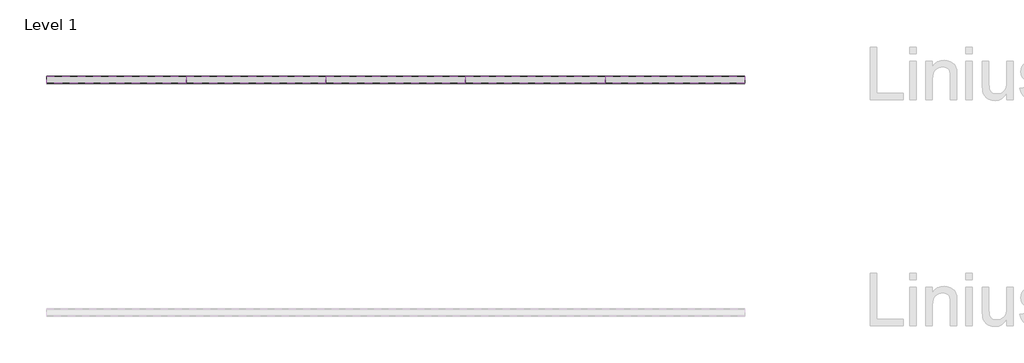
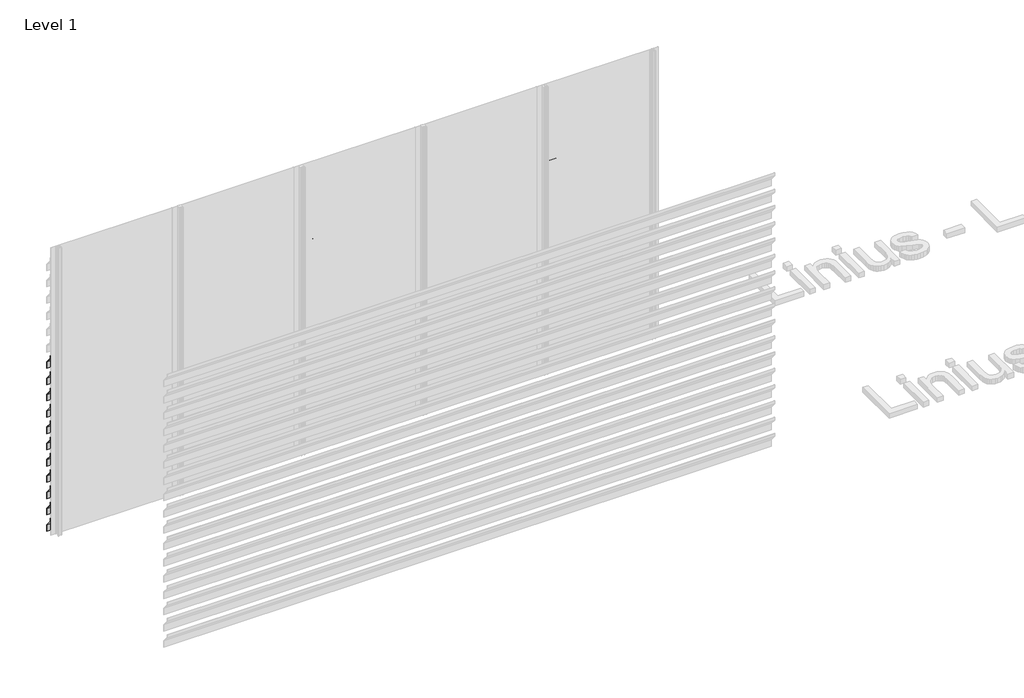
# One storey, part 71 of 121: 79 proxies.
"""IFC4 building model written with IfcOpenShell, lengths in millimetres."""

from ifc_helpers import new_model, si_unit, frame, origin, place, context, project, spatial, polyline, outline, extrude, element, save

model = new_model("IFC4")

# Units and contexts
model_context = context("Model", 3, world=origin())
ifc_project = project(units=[si_unit("LENGTHUNIT", "METRE", prefix="MILLI")], contexts=[model_context])

# Site, building, storey
site = spatial("IfcSite", under=ifc_project)
building = spatial("IfcBuilding", under=site)
storey = spatial("IfcBuildingStorey", under=building, Name="Level 1", Elevation=0.0)

# Proxies
placement = place(None, origin())
element("IfcBuildingElementProxy", 1, Name="Wall Sweeps", at=placement, inside=storey, context=model_context, shape_type="SweptSolid", body=[
    extrude(outline(polyline([(21552.5540136, 1769.0), (21552.5540136, 1700.0), (21550.5540136, 1700.9326153), (21550.5540136, 1768.2698755), (21490.0540136, 1840.0893276), (21490.0540136, 1870.0), (21492.0540136, 1870.0), (21492.0540136, 1840.8194521), (21552.5540136, 1769.0)])), frame((89466.6208097, 0.0, 0.0), z_axis=(1.0, 0.0, 0.0), x_axis=(0.0, 1.0, 0.0)), (0.0, 0.0, 1.0), 1200.0000002),
])
element("IfcBuildingElementProxy", 2, Name="Wall Sweeps", at=placement, inside=storey, context=model_context, shape_type="SweptSolid", body=[
    extrude(outline(polyline([(21552.5540136, 1599.0), (21552.5540136, 1530.0), (21550.5540136, 1530.9326153), (21550.5540136, 1598.2698755), (21490.0540136, 1670.0893276), (21490.0540136, 1700.0), (21492.0540136, 1700.0), (21492.0540136, 1670.8194521), (21552.5540136, 1599.0)])), frame((89466.6208097, 0.0, 0.0), z_axis=(1.0, 0.0, 0.0), x_axis=(0.0, 1.0, 0.0)), (0.0, 0.0, 1.0), 1200.0000002),
])
element("IfcBuildingElementProxy", 3, Name="Wall Sweeps", at=placement, inside=storey, context=model_context, shape_type="SweptSolid", body=[
    extrude(outline(polyline([(21552.5540136, 1429.0), (21552.5540136, 1360.0), (21550.5540136, 1360.9326153), (21550.5540136, 1428.2698755), (21490.0540136, 1500.0893276), (21490.0540136, 1530.0), (21492.0540136, 1530.0), (21492.0540136, 1500.8194521), (21552.5540136, 1429.0)])), frame((89466.6208097, 0.0, 0.0), z_axis=(1.0, 0.0, 0.0), x_axis=(0.0, 1.0, 0.0)), (0.0, 0.0, 1.0), 1200.0000002),
])
element("IfcBuildingElementProxy", 4, Name="Wall Sweeps", at=placement, inside=storey, context=model_context, shape_type="SweptSolid", body=[
    extrude(outline(polyline([(21552.5540136, 1259.0), (21552.5540136, 1190.0), (21550.5540136, 1190.9326153), (21550.5540136, 1258.2698755), (21490.0540136, 1330.0893276), (21490.0540136, 1360.0), (21492.0540136, 1360.0), (21492.0540136, 1330.8194521), (21552.5540136, 1259.0)])), frame((89466.6208097, 0.0, 0.0), z_axis=(1.0, 0.0, 0.0), x_axis=(0.0, 1.0, 0.0)), (0.0, 0.0, 1.0), 1200.0000002),
])
element("IfcBuildingElementProxy", 5, Name="Wall Sweeps", at=placement, inside=storey, context=model_context, shape_type="SweptSolid", body=[
    extrude(outline(polyline([(21552.5540136, 1089.0), (21552.5540136, 1020.0), (21550.5540136, 1020.9326153), (21550.5540136, 1088.2698755), (21490.0540136, 1160.0893276), (21490.0540136, 1190.0), (21492.0540136, 1190.0), (21492.0540136, 1160.8194521), (21552.5540136, 1089.0)])), frame((89466.6208097, 0.0, 0.0), z_axis=(1.0, 0.0, 0.0), x_axis=(0.0, 1.0, 0.0)), (0.0, 0.0, 1.0), 1200.0000002),
])
element("IfcBuildingElementProxy", 6, Name="Wall Sweeps", at=placement, inside=storey, context=model_context, shape_type="SweptSolid", body=[
    extrude(outline(polyline([(21552.5540136, 919.0), (21552.5540136, 850.0), (21550.5540136, 850.9326153), (21550.5540136, 918.2698755), (21490.0540136, 990.0893276), (21490.0540136, 1020.0), (21492.0540136, 1020.0), (21492.0540136, 990.8194521), (21552.5540136, 919.0)])), frame((89466.6208097, 0.0, 0.0), z_axis=(1.0, 0.0, 0.0), x_axis=(0.0, 1.0, 0.0)), (0.0, 0.0, 1.0), 1200.0000002),
])
element("IfcBuildingElementProxy", 7, Name="Wall Sweeps", at=placement, inside=storey, context=model_context, shape_type="SweptSolid", body=[
    extrude(outline(polyline([(21552.5540136, 749.0), (21552.5540136, 680.0), (21550.5540136, 680.9326153), (21550.5540136, 748.2698755), (21490.0540136, 820.0893276), (21490.0540136, 850.0), (21492.0540136, 850.0), (21492.0540136, 820.8194521), (21552.5540136, 749.0)])), frame((89466.6208097, 0.0, 0.0), z_axis=(1.0, 0.0, 0.0), x_axis=(0.0, 1.0, 0.0)), (0.0, 0.0, 1.0), 1200.0000002),
])
element("IfcBuildingElementProxy", 8, Name="Wall Sweeps", at=placement, inside=storey, context=model_context, shape_type="SweptSolid", body=[
    extrude(outline(polyline([(21552.5540136, 579.0), (21552.5540136, 510.0), (21550.5540136, 510.9326153), (21550.5540136, 578.2698755), (21490.0540136, 650.0893276), (21490.0540136, 680.0), (21492.0540136, 680.0), (21492.0540136, 650.8194521), (21552.5540136, 579.0)])), frame((89466.6208097, 0.0, 0.0), z_axis=(1.0, 0.0, 0.0), x_axis=(0.0, 1.0, 0.0)), (0.0, 0.0, 1.0), 1200.0000002),
])
element("IfcBuildingElementProxy", 9, Name="Wall Sweeps", at=placement, inside=storey, context=model_context, shape_type="SweptSolid", body=[
    extrude(outline(polyline([(21552.5540136, 409.0), (21552.5540136, 340.0), (21550.5540136, 340.9326153), (21550.5540136, 408.2698755), (21490.0540136, 480.0893276), (21490.0540136, 510.0), (21492.0540136, 510.0), (21492.0540136, 480.8194521), (21552.5540136, 409.0)])), frame((89466.6208097, 0.0, 0.0), z_axis=(1.0, 0.0, 0.0), x_axis=(0.0, 1.0, 0.0)), (0.0, 0.0, 1.0), 1200.0000002),
])
element("IfcBuildingElementProxy", 10, Name="Wall Sweeps", at=placement, inside=storey, context=model_context, shape_type="SweptSolid", body=[
    extrude(outline(polyline([(21552.5540136, 239.0), (21552.5540136, 170.0), (21550.5540136, 170.9326153), (21550.5540136, 238.2698755), (21490.0540136, 310.0893276), (21490.0540136, 340.0), (21492.0540136, 340.0), (21492.0540136, 310.8194521), (21552.5540136, 239.0)])), frame((89466.6208097, 0.0, 0.0), z_axis=(1.0, 0.0, 0.0), x_axis=(0.0, 1.0, 0.0)), (0.0, 0.0, 1.0), 1200.0000002),
])
element("IfcBuildingElementProxy", 11, Name="Wall Sweeps", at=placement, inside=storey, context=model_context, shape_type="SweptSolid", body=[
    extrude(outline(polyline([(21552.5540136, 69.0), (21552.5540136, 0.0), (21550.5540136, 0.9326153), (21550.5540136, 68.2698755), (21490.0540136, 140.0893276), (21490.0540136, 170.0), (21492.0540136, 170.0), (21492.0540136, 140.8194521), (21552.5540136, 69.0)])), frame((89466.6208097, 0.0, 0.0), z_axis=(1.0, 0.0, 0.0), x_axis=(0.0, 1.0, 0.0)), (0.0, 0.0, 1.0), 1200.0000002),
])
element("IfcBuildingElementProxy", 12, Name="Wall Sweeps", at=placement, inside=storey, context=model_context, shape_type="SweptSolid", body=[
    extrude(outline(polyline([(21552.5540136, 2789.0), (21552.5540136, 2720.0), (21550.5540136, 2720.9326153), (21550.5540136, 2788.2698755), (21490.0540136, 2860.0893276), (21490.0540136, 2890.0), (21492.0540136, 2890.0), (21492.0540136, 2860.8194521), (21552.5540136, 2789.0)])), frame((90666.6208099, 0.0, 0.0), z_axis=(1.0, 0.0, 0.0), x_axis=(0.0, 1.0, 0.0)), (0.0, 0.0, 1.0), 1199.9999999),
])
element("IfcBuildingElementProxy", 13, Name="Wall Sweeps", at=placement, inside=storey, context=model_context, shape_type="SweptSolid", body=[
    extrude(outline(polyline([(21552.5540136, 2619.0), (21552.5540136, 2550.0), (21550.5540136, 2550.9326153), (21550.5540136, 2618.2698755), (21490.0540136, 2690.0893276), (21490.0540136, 2720.0), (21492.0540136, 2720.0), (21492.0540136, 2690.8194521), (21552.5540136, 2619.0)])), frame((90666.6208099, 0.0, 0.0), z_axis=(1.0, 0.0, 0.0), x_axis=(0.0, 1.0, 0.0)), (0.0, 0.0, 1.0), 1199.9999999),
])
element("IfcBuildingElementProxy", 14, Name="Wall Sweeps", at=placement, inside=storey, context=model_context, shape_type="SweptSolid", body=[
    extrude(outline(polyline([(21552.5540136, 2449.0), (21552.5540136, 2380.0), (21550.5540136, 2380.9326153), (21550.5540136, 2448.2698755), (21490.0540136, 2520.0893276), (21490.0540136, 2550.0), (21492.0540136, 2550.0), (21492.0540136, 2520.8194521), (21552.5540136, 2449.0)])), frame((90666.6208099, 0.0, 0.0), z_axis=(1.0, 0.0, 0.0), x_axis=(0.0, 1.0, 0.0)), (0.0, 0.0, 1.0), 1199.9999999),
])
element("IfcBuildingElementProxy", 15, Name="Wall Sweeps", at=placement, inside=storey, context=model_context, shape_type="SweptSolid", body=[
    extrude(outline(polyline([(21552.5540136, 2279.0), (21552.5540136, 2210.0), (21550.5540136, 2210.9326153), (21550.5540136, 2278.2698755), (21490.0540136, 2350.0893276), (21490.0540136, 2380.0), (21492.0540136, 2380.0), (21492.0540136, 2350.8194521), (21552.5540136, 2279.0)])), frame((90666.6208099, 0.0, 0.0), z_axis=(1.0, 0.0, 0.0), x_axis=(0.0, 1.0, 0.0)), (0.0, 0.0, 1.0), 1199.9999999),
])
element("IfcBuildingElementProxy", 16, Name="Wall Sweeps", at=placement, inside=storey, context=model_context, shape_type="SweptSolid", body=[
    extrude(outline(polyline([(21552.5540136, 2109.0), (21552.5540136, 2040.0), (21550.5540136, 2040.9326153), (21550.5540136, 2108.2698755), (21490.0540136, 2180.0893276), (21490.0540136, 2210.0), (21492.0540136, 2210.0), (21492.0540136, 2180.8194521), (21552.5540136, 2109.0)])), frame((90666.6208099, 0.0, 0.0), z_axis=(1.0, 0.0, 0.0), x_axis=(0.0, 1.0, 0.0)), (0.0, 0.0, 1.0), 1199.9999999),
])
element("IfcBuildingElementProxy", 17, Name="Wall Sweeps", at=placement, inside=storey, context=model_context, shape_type="SweptSolid", body=[
    extrude(outline(polyline([(21552.5540136, 1939.0), (21552.5540136, 1870.0), (21550.5540136, 1870.9326153), (21550.5540136, 1938.2698755), (21490.0540136, 2010.0893276), (21490.0540136, 2040.0), (21492.0540136, 2040.0), (21492.0540136, 2010.8194521), (21552.5540136, 1939.0)])), frame((90666.6208099, 0.0, 0.0), z_axis=(1.0, 0.0, 0.0), x_axis=(0.0, 1.0, 0.0)), (0.0, 0.0, 1.0), 1199.9999999),
])
element("IfcBuildingElementProxy", 18, Name="Wall Sweeps", at=placement, inside=storey, context=model_context, shape_type="SweptSolid", body=[
    extrude(outline(polyline([(21552.5540136, 1769.0), (21552.5540136, 1700.0), (21550.5540136, 1700.9326153), (21550.5540136, 1768.2698755), (21490.0540136, 1840.0893276), (21490.0540136, 1870.0), (21492.0540136, 1870.0), (21492.0540136, 1840.8194521), (21552.5540136, 1769.0)])), frame((90666.6208099, 0.0, 0.0), z_axis=(1.0, 0.0, 0.0), x_axis=(0.0, 1.0, 0.0)), (0.0, 0.0, 1.0), 1199.9999999),
])
element("IfcBuildingElementProxy", 19, Name="Wall Sweeps", at=placement, inside=storey, context=model_context, shape_type="SweptSolid", body=[
    extrude(outline(polyline([(21552.5540136, 1599.0), (21552.5540136, 1530.0), (21550.5540136, 1530.9326153), (21550.5540136, 1598.2698755), (21490.0540136, 1670.0893276), (21490.0540136, 1700.0), (21492.0540136, 1700.0), (21492.0540136, 1670.8194521), (21552.5540136, 1599.0)])), frame((90666.6208099, 0.0, 0.0), z_axis=(1.0, 0.0, 0.0), x_axis=(0.0, 1.0, 0.0)), (0.0, 0.0, 1.0), 1199.9999999),
])
element("IfcBuildingElementProxy", 20, Name="Wall Sweeps", at=placement, inside=storey, context=model_context, shape_type="SweptSolid", body=[
    extrude(outline(polyline([(21552.5540136, 1429.0), (21552.5540136, 1360.0), (21550.5540136, 1360.9326153), (21550.5540136, 1428.2698755), (21490.0540136, 1500.0893276), (21490.0540136, 1530.0), (21492.0540136, 1530.0), (21492.0540136, 1500.8194521), (21552.5540136, 1429.0)])), frame((90666.6208099, 0.0, 0.0), z_axis=(1.0, 0.0, 0.0), x_axis=(0.0, 1.0, 0.0)), (0.0, 0.0, 1.0), 1199.9999999),
])
element("IfcBuildingElementProxy", 21, Name="Wall Sweeps", at=placement, inside=storey, context=model_context, shape_type="SweptSolid", body=[
    extrude(outline(polyline([(21552.5540136, 1259.0), (21552.5540136, 1190.0), (21550.5540136, 1190.9326153), (21550.5540136, 1258.2698755), (21490.0540136, 1330.0893276), (21490.0540136, 1360.0), (21492.0540136, 1360.0), (21492.0540136, 1330.8194521), (21552.5540136, 1259.0)])), frame((90666.6208099, 0.0, 0.0), z_axis=(1.0, 0.0, 0.0), x_axis=(0.0, 1.0, 0.0)), (0.0, 0.0, 1.0), 1199.9999999),
])
element("IfcBuildingElementProxy", 22, Name="Wall Sweeps", at=placement, inside=storey, context=model_context, shape_type="SweptSolid", body=[
    extrude(outline(polyline([(21552.5540136, 1089.0), (21552.5540136, 1020.0), (21550.5540136, 1020.9326153), (21550.5540136, 1088.2698755), (21490.0540136, 1160.0893276), (21490.0540136, 1190.0), (21492.0540136, 1190.0), (21492.0540136, 1160.8194521), (21552.5540136, 1089.0)])), frame((90666.6208099, 0.0, 0.0), z_axis=(1.0, 0.0, 0.0), x_axis=(0.0, 1.0, 0.0)), (0.0, 0.0, 1.0), 1199.9999999),
])
element("IfcBuildingElementProxy", 23, Name="Wall Sweeps", at=placement, inside=storey, context=model_context, shape_type="SweptSolid", body=[
    extrude(outline(polyline([(21552.5540136, 919.0), (21552.5540136, 850.0), (21550.5540136, 850.9326153), (21550.5540136, 918.2698755), (21490.0540136, 990.0893276), (21490.0540136, 1020.0), (21492.0540136, 1020.0), (21492.0540136, 990.8194521), (21552.5540136, 919.0)])), frame((90666.6208099, 0.0, 0.0), z_axis=(1.0, 0.0, 0.0), x_axis=(0.0, 1.0, 0.0)), (0.0, 0.0, 1.0), 1199.9999999),
])
element("IfcBuildingElementProxy", 24, Name="Wall Sweeps", at=placement, inside=storey, context=model_context, shape_type="SweptSolid", body=[
    extrude(outline(polyline([(21552.5540136, 749.0), (21552.5540136, 680.0), (21550.5540136, 680.9326153), (21550.5540136, 748.2698755), (21490.0540136, 820.0893276), (21490.0540136, 850.0), (21492.0540136, 850.0), (21492.0540136, 820.8194521), (21552.5540136, 749.0)])), frame((90666.6208099, 0.0, 0.0), z_axis=(1.0, 0.0, 0.0), x_axis=(0.0, 1.0, 0.0)), (0.0, 0.0, 1.0), 1199.9999999),
])
element("IfcBuildingElementProxy", 25, Name="Wall Sweeps", at=placement, inside=storey, context=model_context, shape_type="SweptSolid", body=[
    extrude(outline(polyline([(21552.5540136, 579.0), (21552.5540136, 510.0), (21550.5540136, 510.9326153), (21550.5540136, 578.2698755), (21490.0540136, 650.0893276), (21490.0540136, 680.0), (21492.0540136, 680.0), (21492.0540136, 650.8194521), (21552.5540136, 579.0)])), frame((90666.6208099, 0.0, 0.0), z_axis=(1.0, 0.0, 0.0), x_axis=(0.0, 1.0, 0.0)), (0.0, 0.0, 1.0), 1199.9999999),
])
element("IfcBuildingElementProxy", 26, Name="Wall Sweeps", at=placement, inside=storey, context=model_context, shape_type="SweptSolid", body=[
    extrude(outline(polyline([(21552.5540136, 409.0), (21552.5540136, 340.0), (21550.5540136, 340.9326153), (21550.5540136, 408.2698755), (21490.0540136, 480.0893276), (21490.0540136, 510.0), (21492.0540136, 510.0), (21492.0540136, 480.8194521), (21552.5540136, 409.0)])), frame((90666.6208099, 0.0, 0.0), z_axis=(1.0, 0.0, 0.0), x_axis=(0.0, 1.0, 0.0)), (0.0, 0.0, 1.0), 1199.9999999),
])
element("IfcBuildingElementProxy", 27, Name="Wall Sweeps", at=placement, inside=storey, context=model_context, shape_type="SweptSolid", body=[
    extrude(outline(polyline([(21552.5540136, 239.0), (21552.5540136, 170.0), (21550.5540136, 170.9326153), (21550.5540136, 238.2698755), (21490.0540136, 310.0893276), (21490.0540136, 340.0), (21492.0540136, 340.0), (21492.0540136, 310.8194521), (21552.5540136, 239.0)])), frame((90666.6208099, 0.0, 0.0), z_axis=(1.0, 0.0, 0.0), x_axis=(0.0, 1.0, 0.0)), (0.0, 0.0, 1.0), 1199.9999999),
])
element("IfcBuildingElementProxy", 28, Name="Wall Sweeps", at=placement, inside=storey, context=model_context, shape_type="SweptSolid", body=[
    extrude(outline(polyline([(21552.5540136, 69.0), (21552.5540136, 0.0), (21550.5540136, 0.9326153), (21550.5540136, 68.2698755), (21490.0540136, 140.0893276), (21490.0540136, 170.0), (21492.0540136, 170.0), (21492.0540136, 140.8194521), (21552.5540136, 69.0)])), frame((90666.6208099, 0.0, 0.0), z_axis=(1.0, 0.0, 0.0), x_axis=(0.0, 1.0, 0.0)), (0.0, 0.0, 1.0), 1199.9999999),
])
element("IfcBuildingElementProxy", 29, Name="Wall Sweeps", at=placement, inside=storey, context=model_context, shape_type="SweptSolid", body=[
    extrude(outline(polyline([(21552.5540136, 2789.0), (21552.5540136, 2720.0), (21550.5540136, 2720.9326153), (21550.5540136, 2788.2698755), (21490.0540136, 2860.0893276), (21490.0540136, 2890.0), (21492.0540136, 2890.0), (21492.0540136, 2860.8194521), (21552.5540136, 2789.0)])), frame((94266.6208095, 0.0, 0.0), z_axis=(1.0, 0.0, 0.0), x_axis=(0.0, 1.0, 0.0)), (0.0, 0.0, 1.0), 1200.0000002),
])
element("IfcBuildingElementProxy", 30, Name="Wall Sweeps", at=placement, inside=storey, context=model_context, shape_type="SweptSolid", body=[
    extrude(outline(polyline([(21552.5540136, 2619.0), (21552.5540136, 2550.0), (21550.5540136, 2550.9326153), (21550.5540136, 2618.2698755), (21490.0540136, 2690.0893276), (21490.0540136, 2720.0), (21492.0540136, 2720.0), (21492.0540136, 2690.8194521), (21552.5540136, 2619.0)])), frame((94266.6208095, 0.0, 0.0), z_axis=(1.0, 0.0, 0.0), x_axis=(0.0, 1.0, 0.0)), (0.0, 0.0, 1.0), 1200.0000002),
])
element("IfcBuildingElementProxy", 31, Name="Wall Sweeps", at=placement, inside=storey, context=model_context, shape_type="SweptSolid", body=[
    extrude(outline(polyline([(21552.5540136, 2449.0), (21552.5540136, 2380.0), (21550.5540136, 2380.9326153), (21550.5540136, 2448.2698755), (21490.0540136, 2520.0893276), (21490.0540136, 2550.0), (21492.0540136, 2550.0), (21492.0540136, 2520.8194521), (21552.5540136, 2449.0)])), frame((94266.6208095, 0.0, 0.0), z_axis=(1.0, 0.0, 0.0), x_axis=(0.0, 1.0, 0.0)), (0.0, 0.0, 1.0), 1200.0000002),
])
element("IfcBuildingElementProxy", 32, Name="Wall Sweeps", at=placement, inside=storey, context=model_context, shape_type="SweptSolid", body=[
    extrude(outline(polyline([(21552.5540136, 2279.0), (21552.5540136, 2210.0), (21550.5540136, 2210.9326153), (21550.5540136, 2278.2698755), (21490.0540136, 2350.0893276), (21490.0540136, 2380.0), (21492.0540136, 2380.0), (21492.0540136, 2350.8194521), (21552.5540136, 2279.0)])), frame((94266.6208095, 0.0, 0.0), z_axis=(1.0, 0.0, 0.0), x_axis=(0.0, 1.0, 0.0)), (0.0, 0.0, 1.0), 1200.0000002),
])
element("IfcBuildingElementProxy", 33, Name="Wall Sweeps", at=placement, inside=storey, context=model_context, shape_type="SweptSolid", body=[
    extrude(outline(polyline([(21552.5540136, 2109.0), (21552.5540136, 2040.0), (21550.5540136, 2040.9326153), (21550.5540136, 2108.2698755), (21490.0540136, 2180.0893276), (21490.0540136, 2210.0), (21492.0540136, 2210.0), (21492.0540136, 2180.8194521), (21552.5540136, 2109.0)])), frame((94266.6208095, 0.0, 0.0), z_axis=(1.0, 0.0, 0.0), x_axis=(0.0, 1.0, 0.0)), (0.0, 0.0, 1.0), 1200.0000002),
])
element("IfcBuildingElementProxy", 34, Name="Wall Sweeps", at=placement, inside=storey, context=model_context, shape_type="SweptSolid", body=[
    extrude(outline(polyline([(21552.5540136, 1939.0), (21552.5540136, 1870.0), (21550.5540136, 1870.9326153), (21550.5540136, 1938.2698755), (21490.0540136, 2010.0893276), (21490.0540136, 2040.0), (21492.0540136, 2040.0), (21492.0540136, 2010.8194521), (21552.5540136, 1939.0)])), frame((94266.6208095, 0.0, 0.0), z_axis=(1.0, 0.0, 0.0), x_axis=(0.0, 1.0, 0.0)), (0.0, 0.0, 1.0), 1200.0000002),
])
element("IfcBuildingElementProxy", 35, Name="Wall Sweeps", at=placement, inside=storey, context=model_context, shape_type="SweptSolid", body=[
    extrude(outline(polyline([(21552.5540136, 1769.0), (21552.5540136, 1700.0), (21550.5540136, 1700.9326153), (21550.5540136, 1768.2698755), (21490.0540136, 1840.0893276), (21490.0540136, 1870.0), (21492.0540136, 1870.0), (21492.0540136, 1840.8194521), (21552.5540136, 1769.0)])), frame((94266.6208095, 0.0, 0.0), z_axis=(1.0, 0.0, 0.0), x_axis=(0.0, 1.0, 0.0)), (0.0, 0.0, 1.0), 1200.0000002),
])
element("IfcBuildingElementProxy", 36, Name="Wall Sweeps", at=placement, inside=storey, context=model_context, shape_type="SweptSolid", body=[
    extrude(outline(polyline([(21552.5540136, 1599.0), (21552.5540136, 1530.0), (21550.5540136, 1530.9326153), (21550.5540136, 1598.2698755), (21490.0540136, 1670.0893276), (21490.0540136, 1700.0), (21492.0540136, 1700.0), (21492.0540136, 1670.8194521), (21552.5540136, 1599.0)])), frame((94266.6208095, 0.0, 0.0), z_axis=(1.0, 0.0, 0.0), x_axis=(0.0, 1.0, 0.0)), (0.0, 0.0, 1.0), 1200.0000002),
])
element("IfcBuildingElementProxy", 37, Name="Wall Sweeps", at=placement, inside=storey, context=model_context, shape_type="SweptSolid", body=[
    extrude(outline(polyline([(21552.5540136, 1429.0), (21552.5540136, 1360.0), (21550.5540136, 1360.9326153), (21550.5540136, 1428.2698755), (21490.0540136, 1500.0893276), (21490.0540136, 1530.0), (21492.0540136, 1530.0), (21492.0540136, 1500.8194521), (21552.5540136, 1429.0)])), frame((94266.6208095, 0.0, 0.0), z_axis=(1.0, 0.0, 0.0), x_axis=(0.0, 1.0, 0.0)), (0.0, 0.0, 1.0), 1200.0000002),
])
element("IfcBuildingElementProxy", 38, Name="Wall Sweeps", at=placement, inside=storey, context=model_context, shape_type="SweptSolid", body=[
    extrude(outline(polyline([(21552.5540136, 1259.0), (21552.5540136, 1190.0), (21550.5540136, 1190.9326153), (21550.5540136, 1258.2698755), (21490.0540136, 1330.0893276), (21490.0540136, 1360.0), (21492.0540136, 1360.0), (21492.0540136, 1330.8194521), (21552.5540136, 1259.0)])), frame((94266.6208095, 0.0, 0.0), z_axis=(1.0, 0.0, 0.0), x_axis=(0.0, 1.0, 0.0)), (0.0, 0.0, 1.0), 1200.0000002),
])
element("IfcBuildingElementProxy", 39, Name="Wall Sweeps", at=placement, inside=storey, context=model_context, shape_type="SweptSolid", body=[
    extrude(outline(polyline([(21552.5540136, 1089.0), (21552.5540136, 1020.0), (21550.5540136, 1020.9326153), (21550.5540136, 1088.2698755), (21490.0540136, 1160.0893276), (21490.0540136, 1190.0), (21492.0540136, 1190.0), (21492.0540136, 1160.8194521), (21552.5540136, 1089.0)])), frame((94266.6208095, 0.0, 0.0), z_axis=(1.0, 0.0, 0.0), x_axis=(0.0, 1.0, 0.0)), (0.0, 0.0, 1.0), 1200.0000002),
])
element("IfcBuildingElementProxy", 40, Name="Wall Sweeps", at=placement, inside=storey, context=model_context, shape_type="SweptSolid", body=[
    extrude(outline(polyline([(21552.5540136, 919.0), (21552.5540136, 850.0), (21550.5540136, 850.9326153), (21550.5540136, 918.2698755), (21490.0540136, 990.0893276), (21490.0540136, 1020.0), (21492.0540136, 1020.0), (21492.0540136, 990.8194521), (21552.5540136, 919.0)])), frame((94266.6208095, 0.0, 0.0), z_axis=(1.0, 0.0, 0.0), x_axis=(0.0, 1.0, 0.0)), (0.0, 0.0, 1.0), 1200.0000002),
])
element("IfcBuildingElementProxy", 41, Name="Wall Sweeps", at=placement, inside=storey, context=model_context, shape_type="SweptSolid", body=[
    extrude(outline(polyline([(21552.5540136, 749.0), (21552.5540136, 680.0), (21550.5540136, 680.9326153), (21550.5540136, 748.2698755), (21490.0540136, 820.0893276), (21490.0540136, 850.0), (21492.0540136, 850.0), (21492.0540136, 820.8194521), (21552.5540136, 749.0)])), frame((94266.6208095, 0.0, 0.0), z_axis=(1.0, 0.0, 0.0), x_axis=(0.0, 1.0, 0.0)), (0.0, 0.0, 1.0), 1200.0000002),
])
element("IfcBuildingElementProxy", 42, Name="Wall Sweeps", at=placement, inside=storey, context=model_context, shape_type="SweptSolid", body=[
    extrude(outline(polyline([(21552.5540136, 579.0), (21552.5540136, 510.0), (21550.5540136, 510.9326153), (21550.5540136, 578.2698755), (21490.0540136, 650.0893276), (21490.0540136, 680.0), (21492.0540136, 680.0), (21492.0540136, 650.8194521), (21552.5540136, 579.0)])), frame((94266.6208095, 0.0, 0.0), z_axis=(1.0, 0.0, 0.0), x_axis=(0.0, 1.0, 0.0)), (0.0, 0.0, 1.0), 1200.0000002),
])
element("IfcBuildingElementProxy", 43, Name="Wall Sweeps", at=placement, inside=storey, context=model_context, shape_type="SweptSolid", body=[
    extrude(outline(polyline([(21552.5540136, 409.0), (21552.5540136, 340.0), (21550.5540136, 340.9326153), (21550.5540136, 408.2698755), (21490.0540136, 480.0893276), (21490.0540136, 510.0), (21492.0540136, 510.0), (21492.0540136, 480.8194521), (21552.5540136, 409.0)])), frame((94266.6208095, 0.0, 0.0), z_axis=(1.0, 0.0, 0.0), x_axis=(0.0, 1.0, 0.0)), (0.0, 0.0, 1.0), 1200.0000002),
])
element("IfcBuildingElementProxy", 44, Name="Wall Sweeps", at=placement, inside=storey, context=model_context, shape_type="SweptSolid", body=[
    extrude(outline(polyline([(21552.5540136, 239.0), (21552.5540136, 170.0), (21550.5540136, 170.9326153), (21550.5540136, 238.2698755), (21490.0540136, 310.0893276), (21490.0540136, 340.0), (21492.0540136, 340.0), (21492.0540136, 310.8194521), (21552.5540136, 239.0)])), frame((94266.6208095, 0.0, 0.0), z_axis=(1.0, 0.0, 0.0), x_axis=(0.0, 1.0, 0.0)), (0.0, 0.0, 1.0), 1200.0000002),
])
element("IfcBuildingElementProxy", 45, Name="Wall Sweeps", at=placement, inside=storey, context=model_context, shape_type="SweptSolid", body=[
    extrude(outline(polyline([(21552.5540136, 69.0), (21552.5540136, 0.0), (21550.5540136, 0.9326153), (21550.5540136, 68.2698755), (21490.0540136, 140.0893276), (21490.0540136, 170.0), (21492.0540136, 170.0), (21492.0540136, 140.8194521), (21552.5540136, 69.0)])), frame((94266.6208095, 0.0, 0.0), z_axis=(1.0, 0.0, 0.0), x_axis=(0.0, 1.0, 0.0)), (0.0, 0.0, 1.0), 1200.0000002),
])
element("IfcBuildingElementProxy", 46, Name="Wall Sweeps", at=placement, inside=storey, context=model_context, shape_type="SweptSolid", body=[
    extrude(outline(polyline([(21552.5540136, 2789.0), (21552.5540136, 2720.0), (21550.5540136, 2720.9326153), (21550.5540136, 2788.2698755), (21490.0540136, 2860.0893276), (21490.0540136, 2890.0), (21492.0540136, 2890.0), (21492.0540136, 2860.8194521), (21552.5540136, 2789.0)])), frame((91866.6208097, 0.0, 0.0), z_axis=(1.0, 0.0, 0.0), x_axis=(0.0, 1.0, 0.0)), (0.0, 0.0, 1.0), 1199.9999999),
])
element("IfcBuildingElementProxy", 47, Name="Wall Sweeps", at=placement, inside=storey, context=model_context, shape_type="SweptSolid", body=[
    extrude(outline(polyline([(21552.5540136, 2619.0), (21552.5540136, 2550.0), (21550.5540136, 2550.9326153), (21550.5540136, 2618.2698755), (21490.0540136, 2690.0893276), (21490.0540136, 2720.0), (21492.0540136, 2720.0), (21492.0540136, 2690.8194521), (21552.5540136, 2619.0)])), frame((91866.6208097, 0.0, 0.0), z_axis=(1.0, 0.0, 0.0), x_axis=(0.0, 1.0, 0.0)), (0.0, 0.0, 1.0), 1199.9999999),
])
element("IfcBuildingElementProxy", 48, Name="Wall Sweeps", at=placement, inside=storey, context=model_context, shape_type="SweptSolid", body=[
    extrude(outline(polyline([(21552.5540136, 2449.0), (21552.5540136, 2380.0), (21550.5540136, 2380.9326153), (21550.5540136, 2448.2698755), (21490.0540136, 2520.0893276), (21490.0540136, 2550.0), (21492.0540136, 2550.0), (21492.0540136, 2520.8194521), (21552.5540136, 2449.0)])), frame((91866.6208097, 0.0, 0.0), z_axis=(1.0, 0.0, 0.0), x_axis=(0.0, 1.0, 0.0)), (0.0, 0.0, 1.0), 1199.9999999),
])
element("IfcBuildingElementProxy", 49, Name="Wall Sweeps", at=placement, inside=storey, context=model_context, shape_type="SweptSolid", body=[
    extrude(outline(polyline([(21552.5540136, 2279.0), (21552.5540136, 2210.0), (21550.5540136, 2210.9326153), (21550.5540136, 2278.2698755), (21490.0540136, 2350.0893276), (21490.0540136, 2380.0), (21492.0540136, 2380.0), (21492.0540136, 2350.8194521), (21552.5540136, 2279.0)])), frame((91866.6208097, 0.0, 0.0), z_axis=(1.0, 0.0, 0.0), x_axis=(0.0, 1.0, 0.0)), (0.0, 0.0, 1.0), 1199.9999999),
])
element("IfcBuildingElementProxy", 50, Name="Wall Sweeps", at=placement, inside=storey, context=model_context, shape_type="SweptSolid", body=[
    extrude(outline(polyline([(21552.5540136, 2109.0), (21552.5540136, 2040.0), (21550.5540136, 2040.9326153), (21550.5540136, 2108.2698755), (21490.0540136, 2180.0893276), (21490.0540136, 2210.0), (21492.0540136, 2210.0), (21492.0540136, 2180.8194521), (21552.5540136, 2109.0)])), frame((91866.6208097, 0.0, 0.0), z_axis=(1.0, 0.0, 0.0), x_axis=(0.0, 1.0, 0.0)), (0.0, 0.0, 1.0), 1199.9999999),
])
element("IfcBuildingElementProxy", 51, Name="Wall Sweeps", at=placement, inside=storey, context=model_context, shape_type="SweptSolid", body=[
    extrude(outline(polyline([(21552.5540136, 1939.0), (21552.5540136, 1870.0), (21550.5540136, 1870.9326153), (21550.5540136, 1938.2698755), (21490.0540136, 2010.0893276), (21490.0540136, 2040.0), (21492.0540136, 2040.0), (21492.0540136, 2010.8194521), (21552.5540136, 1939.0)])), frame((91866.6208097, 0.0, 0.0), z_axis=(1.0, 0.0, 0.0), x_axis=(0.0, 1.0, 0.0)), (0.0, 0.0, 1.0), 1199.9999999),
])
element("IfcBuildingElementProxy", 52, Name="Wall Sweeps", at=placement, inside=storey, context=model_context, shape_type="SweptSolid", body=[
    extrude(outline(polyline([(21552.5540136, 1769.0), (21552.5540136, 1700.0), (21550.5540136, 1700.9326153), (21550.5540136, 1768.2698755), (21490.0540136, 1840.0893276), (21490.0540136, 1870.0), (21492.0540136, 1870.0), (21492.0540136, 1840.8194521), (21552.5540136, 1769.0)])), frame((91866.6208097, 0.0, 0.0), z_axis=(1.0, 0.0, 0.0), x_axis=(0.0, 1.0, 0.0)), (0.0, 0.0, 1.0), 1199.9999999),
])
element("IfcBuildingElementProxy", 53, Name="Wall Sweeps", at=placement, inside=storey, context=model_context, shape_type="SweptSolid", body=[
    extrude(outline(polyline([(21552.5540136, 1599.0), (21552.5540136, 1530.0), (21550.5540136, 1530.9326153), (21550.5540136, 1598.2698755), (21490.0540136, 1670.0893276), (21490.0540136, 1700.0), (21492.0540136, 1700.0), (21492.0540136, 1670.8194521), (21552.5540136, 1599.0)])), frame((91866.6208097, 0.0, 0.0), z_axis=(1.0, 0.0, 0.0), x_axis=(0.0, 1.0, 0.0)), (0.0, 0.0, 1.0), 1199.9999999),
])
element("IfcBuildingElementProxy", 54, Name="Wall Sweeps", at=placement, inside=storey, context=model_context, shape_type="SweptSolid", body=[
    extrude(outline(polyline([(21552.5540136, 1429.0), (21552.5540136, 1360.0), (21550.5540136, 1360.9326153), (21550.5540136, 1428.2698755), (21490.0540136, 1500.0893276), (21490.0540136, 1530.0), (21492.0540136, 1530.0), (21492.0540136, 1500.8194521), (21552.5540136, 1429.0)])), frame((91866.6208097, 0.0, 0.0), z_axis=(1.0, 0.0, 0.0), x_axis=(0.0, 1.0, 0.0)), (0.0, 0.0, 1.0), 1199.9999999),
])
element("IfcBuildingElementProxy", 55, Name="Wall Sweeps", at=placement, inside=storey, context=model_context, shape_type="SweptSolid", body=[
    extrude(outline(polyline([(21552.5540136, 1259.0), (21552.5540136, 1190.0), (21550.5540136, 1190.9326153), (21550.5540136, 1258.2698755), (21490.0540136, 1330.0893276), (21490.0540136, 1360.0), (21492.0540136, 1360.0), (21492.0540136, 1330.8194521), (21552.5540136, 1259.0)])), frame((91866.6208097, 0.0, 0.0), z_axis=(1.0, 0.0, 0.0), x_axis=(0.0, 1.0, 0.0)), (0.0, 0.0, 1.0), 1199.9999999),
])
element("IfcBuildingElementProxy", 56, Name="Wall Sweeps", at=placement, inside=storey, context=model_context, shape_type="SweptSolid", body=[
    extrude(outline(polyline([(21552.5540136, 1089.0), (21552.5540136, 1020.0), (21550.5540136, 1020.9326153), (21550.5540136, 1088.2698755), (21490.0540136, 1160.0893276), (21490.0540136, 1190.0), (21492.0540136, 1190.0), (21492.0540136, 1160.8194521), (21552.5540136, 1089.0)])), frame((91866.6208097, 0.0, 0.0), z_axis=(1.0, 0.0, 0.0), x_axis=(0.0, 1.0, 0.0)), (0.0, 0.0, 1.0), 1199.9999999),
])
element("IfcBuildingElementProxy", 57, Name="Wall Sweeps", at=placement, inside=storey, context=model_context, shape_type="SweptSolid", body=[
    extrude(outline(polyline([(21552.5540136, 919.0), (21552.5540136, 850.0), (21550.5540136, 850.9326153), (21550.5540136, 918.2698755), (21490.0540136, 990.0893276), (21490.0540136, 1020.0), (21492.0540136, 1020.0), (21492.0540136, 990.8194521), (21552.5540136, 919.0)])), frame((91866.6208097, 0.0, 0.0), z_axis=(1.0, 0.0, 0.0), x_axis=(0.0, 1.0, 0.0)), (0.0, 0.0, 1.0), 1199.9999999),
])
element("IfcBuildingElementProxy", 58, Name="Wall Sweeps", at=placement, inside=storey, context=model_context, shape_type="SweptSolid", body=[
    extrude(outline(polyline([(21552.5540136, 749.0), (21552.5540136, 680.0), (21550.5540136, 680.9326153), (21550.5540136, 748.2698755), (21490.0540136, 820.0893276), (21490.0540136, 850.0), (21492.0540136, 850.0), (21492.0540136, 820.8194521), (21552.5540136, 749.0)])), frame((91866.6208097, 0.0, 0.0), z_axis=(1.0, 0.0, 0.0), x_axis=(0.0, 1.0, 0.0)), (0.0, 0.0, 1.0), 1199.9999999),
])
element("IfcBuildingElementProxy", 59, Name="Wall Sweeps", at=placement, inside=storey, context=model_context, shape_type="SweptSolid", body=[
    extrude(outline(polyline([(21552.5540136, 579.0), (21552.5540136, 510.0), (21550.5540136, 510.9326153), (21550.5540136, 578.2698755), (21490.0540136, 650.0893276), (21490.0540136, 680.0), (21492.0540136, 680.0), (21492.0540136, 650.8194521), (21552.5540136, 579.0)])), frame((91866.6208097, 0.0, 0.0), z_axis=(1.0, 0.0, 0.0), x_axis=(0.0, 1.0, 0.0)), (0.0, 0.0, 1.0), 1199.9999999),
])
element("IfcBuildingElementProxy", 60, Name="Wall Sweeps", at=placement, inside=storey, context=model_context, shape_type="SweptSolid", body=[
    extrude(outline(polyline([(21552.5540136, 409.0), (21552.5540136, 340.0), (21550.5540136, 340.9326153), (21550.5540136, 408.2698755), (21490.0540136, 480.0893276), (21490.0540136, 510.0), (21492.0540136, 510.0), (21492.0540136, 480.8194521), (21552.5540136, 409.0)])), frame((91866.6208097, 0.0, 0.0), z_axis=(1.0, 0.0, 0.0), x_axis=(0.0, 1.0, 0.0)), (0.0, 0.0, 1.0), 1199.9999999),
])
element("IfcBuildingElementProxy", 61, Name="Wall Sweeps", at=placement, inside=storey, context=model_context, shape_type="SweptSolid", body=[
    extrude(outline(polyline([(21552.5540136, 239.0), (21552.5540136, 170.0), (21550.5540136, 170.9326153), (21550.5540136, 238.2698755), (21490.0540136, 310.0893276), (21490.0540136, 340.0), (21492.0540136, 340.0), (21492.0540136, 310.8194521), (21552.5540136, 239.0)])), frame((91866.6208097, 0.0, 0.0), z_axis=(1.0, 0.0, 0.0), x_axis=(0.0, 1.0, 0.0)), (0.0, 0.0, 1.0), 1199.9999999),
])
element("IfcBuildingElementProxy", 62, Name="Wall Sweeps", at=placement, inside=storey, context=model_context, shape_type="SweptSolid", body=[
    extrude(outline(polyline([(21552.5540136, 69.0), (21552.5540136, 0.0), (21550.5540136, 0.9326153), (21550.5540136, 68.2698755), (21490.0540136, 140.0893276), (21490.0540136, 170.0), (21492.0540136, 170.0), (21492.0540136, 140.8194521), (21552.5540136, 69.0)])), frame((91866.6208097, 0.0, 0.0), z_axis=(1.0, 0.0, 0.0), x_axis=(0.0, 1.0, 0.0)), (0.0, 0.0, 1.0), 1199.9999999),
])
element("IfcBuildingElementProxy", 63, Name="Wall Sweeps", at=placement, inside=storey, context=model_context, shape_type="SweptSolid", body=[
    extrude(outline(polyline([(21552.5540136, 2789.0), (21552.5540136, 2720.0), (21550.5540136, 2720.9326153), (21550.5540136, 2788.2698755), (21490.0540136, 2860.0893276), (21490.0540136, 2890.0), (21492.0540136, 2890.0), (21492.0540136, 2860.8194521), (21552.5540136, 2789.0)])), frame((93066.6208096, 0.0, 0.0), z_axis=(1.0, 0.0, 0.0), x_axis=(0.0, 1.0, 0.0)), (0.0, 0.0, 1.0), 1199.9999999),
])
element("IfcBuildingElementProxy", 64, Name="Wall Sweeps", at=placement, inside=storey, context=model_context, shape_type="SweptSolid", body=[
    extrude(outline(polyline([(21552.5540136, 2619.0), (21552.5540136, 2550.0), (21550.5540136, 2550.9326153), (21550.5540136, 2618.2698755), (21490.0540136, 2690.0893276), (21490.0540136, 2720.0), (21492.0540136, 2720.0), (21492.0540136, 2690.8194521), (21552.5540136, 2619.0)])), frame((93066.6208096, 0.0, 0.0), z_axis=(1.0, 0.0, 0.0), x_axis=(0.0, 1.0, 0.0)), (0.0, 0.0, 1.0), 1199.9999999),
])
element("IfcBuildingElementProxy", 65, Name="Wall Sweeps", at=placement, inside=storey, context=model_context, shape_type="SweptSolid", body=[
    extrude(outline(polyline([(21552.5540136, 2449.0), (21552.5540136, 2380.0), (21550.5540136, 2380.9326153), (21550.5540136, 2448.2698755), (21490.0540136, 2520.0893276), (21490.0540136, 2550.0), (21492.0540136, 2550.0), (21492.0540136, 2520.8194521), (21552.5540136, 2449.0)])), frame((93066.6208096, 0.0, 0.0), z_axis=(1.0, 0.0, 0.0), x_axis=(0.0, 1.0, 0.0)), (0.0, 0.0, 1.0), 1199.9999999),
])
element("IfcBuildingElementProxy", 66, Name="Wall Sweeps", at=placement, inside=storey, context=model_context, shape_type="SweptSolid", body=[
    extrude(outline(polyline([(21552.5540136, 2279.0), (21552.5540136, 2210.0), (21550.5540136, 2210.9326153), (21550.5540136, 2278.2698755), (21490.0540136, 2350.0893276), (21490.0540136, 2380.0), (21492.0540136, 2380.0), (21492.0540136, 2350.8194521), (21552.5540136, 2279.0)])), frame((93066.6208096, 0.0, 0.0), z_axis=(1.0, 0.0, 0.0), x_axis=(0.0, 1.0, 0.0)), (0.0, 0.0, 1.0), 1199.9999999),
])
element("IfcBuildingElementProxy", 67, Name="Wall Sweeps", at=placement, inside=storey, context=model_context, shape_type="SweptSolid", body=[
    extrude(outline(polyline([(21552.5540136, 2109.0), (21552.5540136, 2040.0), (21550.5540136, 2040.9326153), (21550.5540136, 2108.2698755), (21490.0540136, 2180.0893276), (21490.0540136, 2210.0), (21492.0540136, 2210.0), (21492.0540136, 2180.8194521), (21552.5540136, 2109.0)])), frame((93066.6208096, 0.0, 0.0), z_axis=(1.0, 0.0, 0.0), x_axis=(0.0, 1.0, 0.0)), (0.0, 0.0, 1.0), 1199.9999999),
])
element("IfcBuildingElementProxy", 68, Name="Wall Sweeps", at=placement, inside=storey, context=model_context, shape_type="SweptSolid", body=[
    extrude(outline(polyline([(21552.5540136, 1939.0), (21552.5540136, 1870.0), (21550.5540136, 1870.9326153), (21550.5540136, 1938.2698755), (21490.0540136, 2010.0893276), (21490.0540136, 2040.0), (21492.0540136, 2040.0), (21492.0540136, 2010.8194521), (21552.5540136, 1939.0)])), frame((93066.6208096, 0.0, 0.0), z_axis=(1.0, 0.0, 0.0), x_axis=(0.0, 1.0, 0.0)), (0.0, 0.0, 1.0), 1199.9999999),
])
element("IfcBuildingElementProxy", 69, Name="Wall Sweeps", at=placement, inside=storey, context=model_context, shape_type="SweptSolid", body=[
    extrude(outline(polyline([(21552.5540136, 1769.0), (21552.5540136, 1700.0), (21550.5540136, 1700.9326153), (21550.5540136, 1768.2698755), (21490.0540136, 1840.0893276), (21490.0540136, 1870.0), (21492.0540136, 1870.0), (21492.0540136, 1840.8194521), (21552.5540136, 1769.0)])), frame((93066.6208096, 0.0, 0.0), z_axis=(1.0, 0.0, 0.0), x_axis=(0.0, 1.0, 0.0)), (0.0, 0.0, 1.0), 1199.9999999),
])
element("IfcBuildingElementProxy", 70, Name="Wall Sweeps", at=placement, inside=storey, context=model_context, shape_type="SweptSolid", body=[
    extrude(outline(polyline([(21552.5540136, 1599.0), (21552.5540136, 1530.0), (21550.5540136, 1530.9326153), (21550.5540136, 1598.2698755), (21490.0540136, 1670.0893276), (21490.0540136, 1700.0), (21492.0540136, 1700.0), (21492.0540136, 1670.8194521), (21552.5540136, 1599.0)])), frame((93066.6208096, 0.0, 0.0), z_axis=(1.0, 0.0, 0.0), x_axis=(0.0, 1.0, 0.0)), (0.0, 0.0, 1.0), 1199.9999999),
])
element("IfcBuildingElementProxy", 71, Name="Wall Sweeps", at=placement, inside=storey, context=model_context, shape_type="SweptSolid", body=[
    extrude(outline(polyline([(21552.5540136, 1429.0), (21552.5540136, 1360.0), (21550.5540136, 1360.9326153), (21550.5540136, 1428.2698755), (21490.0540136, 1500.0893276), (21490.0540136, 1530.0), (21492.0540136, 1530.0), (21492.0540136, 1500.8194521), (21552.5540136, 1429.0)])), frame((93066.6208096, 0.0, 0.0), z_axis=(1.0, 0.0, 0.0), x_axis=(0.0, 1.0, 0.0)), (0.0, 0.0, 1.0), 1199.9999999),
])
element("IfcBuildingElementProxy", 72, Name="Wall Sweeps", at=placement, inside=storey, context=model_context, shape_type="SweptSolid", body=[
    extrude(outline(polyline([(21552.5540136, 1259.0), (21552.5540136, 1190.0), (21550.5540136, 1190.9326153), (21550.5540136, 1258.2698755), (21490.0540136, 1330.0893276), (21490.0540136, 1360.0), (21492.0540136, 1360.0), (21492.0540136, 1330.8194521), (21552.5540136, 1259.0)])), frame((93066.6208096, 0.0, 0.0), z_axis=(1.0, 0.0, 0.0), x_axis=(0.0, 1.0, 0.0)), (0.0, 0.0, 1.0), 1199.9999999),
])
element("IfcBuildingElementProxy", 73, Name="Wall Sweeps", at=placement, inside=storey, context=model_context, shape_type="SweptSolid", body=[
    extrude(outline(polyline([(21552.5540136, 1089.0), (21552.5540136, 1020.0), (21550.5540136, 1020.9326153), (21550.5540136, 1088.2698755), (21490.0540136, 1160.0893276), (21490.0540136, 1190.0), (21492.0540136, 1190.0), (21492.0540136, 1160.8194521), (21552.5540136, 1089.0)])), frame((93066.6208096, 0.0, 0.0), z_axis=(1.0, 0.0, 0.0), x_axis=(0.0, 1.0, 0.0)), (0.0, 0.0, 1.0), 1199.9999999),
])
element("IfcBuildingElementProxy", 74, Name="Wall Sweeps", at=placement, inside=storey, context=model_context, shape_type="SweptSolid", body=[
    extrude(outline(polyline([(21552.5540136, 919.0), (21552.5540136, 850.0), (21550.5540136, 850.9326153), (21550.5540136, 918.2698755), (21490.0540136, 990.0893276), (21490.0540136, 1020.0), (21492.0540136, 1020.0), (21492.0540136, 990.8194521), (21552.5540136, 919.0)])), frame((93066.6208096, 0.0, 0.0), z_axis=(1.0, 0.0, 0.0), x_axis=(0.0, 1.0, 0.0)), (0.0, 0.0, 1.0), 1199.9999999),
])
element("IfcBuildingElementProxy", 75, Name="Wall Sweeps", at=placement, inside=storey, context=model_context, shape_type="SweptSolid", body=[
    extrude(outline(polyline([(21552.5540136, 749.0), (21552.5540136, 680.0), (21550.5540136, 680.9326153), (21550.5540136, 748.2698755), (21490.0540136, 820.0893276), (21490.0540136, 850.0), (21492.0540136, 850.0), (21492.0540136, 820.8194521), (21552.5540136, 749.0)])), frame((93066.6208096, 0.0, 0.0), z_axis=(1.0, 0.0, 0.0), x_axis=(0.0, 1.0, 0.0)), (0.0, 0.0, 1.0), 1199.9999999),
])
element("IfcBuildingElementProxy", 76, Name="Wall Sweeps", at=placement, inside=storey, context=model_context, shape_type="SweptSolid", body=[
    extrude(outline(polyline([(21552.5540136, 579.0), (21552.5540136, 510.0), (21550.5540136, 510.9326153), (21550.5540136, 578.2698755), (21490.0540136, 650.0893276), (21490.0540136, 680.0), (21492.0540136, 680.0), (21492.0540136, 650.8194521), (21552.5540136, 579.0)])), frame((93066.6208096, 0.0, 0.0), z_axis=(1.0, 0.0, 0.0), x_axis=(0.0, 1.0, 0.0)), (0.0, 0.0, 1.0), 1199.9999999),
])
element("IfcBuildingElementProxy", 77, Name="Wall Sweeps", at=placement, inside=storey, context=model_context, shape_type="SweptSolid", body=[
    extrude(outline(polyline([(21552.5540136, 409.0), (21552.5540136, 340.0), (21550.5540136, 340.9326153), (21550.5540136, 408.2698755), (21490.0540136, 480.0893276), (21490.0540136, 510.0), (21492.0540136, 510.0), (21492.0540136, 480.8194521), (21552.5540136, 409.0)])), frame((93066.6208096, 0.0, 0.0), z_axis=(1.0, 0.0, 0.0), x_axis=(0.0, 1.0, 0.0)), (0.0, 0.0, 1.0), 1199.9999999),
])
element("IfcBuildingElementProxy", 78, Name="Wall Sweeps", at=placement, inside=storey, context=model_context, shape_type="SweptSolid", body=[
    extrude(outline(polyline([(21552.5540136, 239.0), (21552.5540136, 170.0), (21550.5540136, 170.9326153), (21550.5540136, 238.2698755), (21490.0540136, 310.0893276), (21490.0540136, 340.0), (21492.0540136, 340.0), (21492.0540136, 310.8194521), (21552.5540136, 239.0)])), frame((93066.6208096, 0.0, 0.0), z_axis=(1.0, 0.0, 0.0), x_axis=(0.0, 1.0, 0.0)), (0.0, 0.0, 1.0), 1199.9999999),
])
element("IfcBuildingElementProxy", 79, Name="Wall Sweeps", at=placement, inside=storey, context=model_context, shape_type="SweptSolid", body=[
    extrude(outline(polyline([(21552.5540136, 69.0), (21552.5540136, 0.0), (21550.5540136, 0.9326153), (21550.5540136, 68.2698755), (21490.0540136, 140.0893276), (21490.0540136, 170.0), (21492.0540136, 170.0), (21492.0540136, 140.8194521), (21552.5540136, 69.0)])), frame((93066.6208096, 0.0, 0.0), z_axis=(1.0, 0.0, 0.0), x_axis=(0.0, 1.0, 0.0)), (0.0, 0.0, 1.0), 1199.9999999),
])

save(model, "model.ifc")
